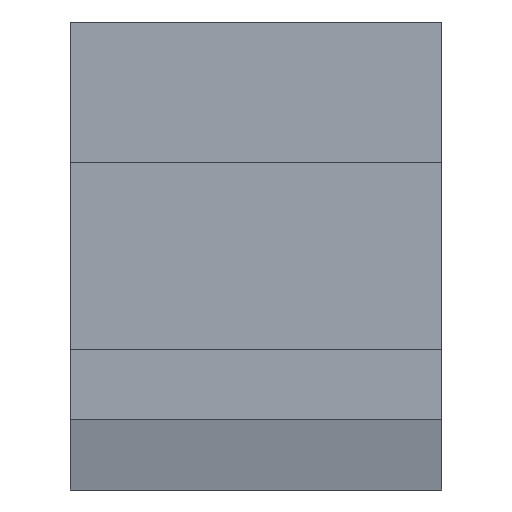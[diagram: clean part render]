
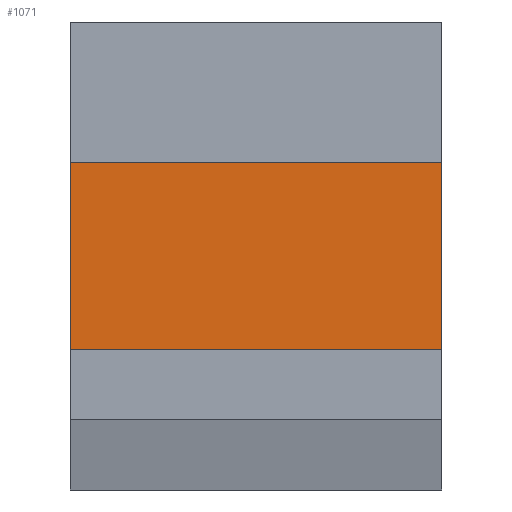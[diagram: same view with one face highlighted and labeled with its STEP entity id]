
A CAD part, front view. The second image highlights one B-rep face of the part: STEP entity #1071.
In plain terms, the highlighted planar face has unit normal (0, -1, 0).
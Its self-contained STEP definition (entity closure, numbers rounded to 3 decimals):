
#217 = DIRECTION ( 'NONE',  ( 0., -1., 0. ) ) ;
#365 = DIRECTION ( 'NONE',  ( 1., 0., 0. ) ) ;
#739 = DIRECTION ( 'NONE',  ( 0., 0., -1. ) ) ;
#839 = EDGE_CURVE ( 'NONE', #1930, #5654, #7679, .T. ) ;
#1010 = CARTESIAN_POINT ( 'NONE',  ( -71.5, 5., 0.652 ) ) ;
#1071 = ADVANCED_FACE ( 'NONE', ( #7317 ), #2902, .T. ) ;
#1079 = DIRECTION ( 'NONE',  ( 0., 0., -1. ) ) ;
#1086 = EDGE_CURVE ( 'NONE', #1930, #7807, #7310, .T. ) ;
#1115 = CARTESIAN_POINT ( 'NONE',  ( 0., 5., 0.652 ) ) ;
#1563 = AXIS2_PLACEMENT_3D ( 'NONE', #2190, #217, #739 ) ;
#1632 = CARTESIAN_POINT ( 'NONE',  ( -71.5, 5., 36.652 ) ) ;
#1930 = VERTEX_POINT ( 'NONE', #7113 ) ;
#2190 = CARTESIAN_POINT ( 'NONE',  ( -71.5, 5., 0.652 ) ) ;
#2655 = ORIENTED_EDGE ( 'NONE', *, *, #1086, .F. ) ;
#2902 = PLANE ( 'NONE',  #1563 ) ;
#2913 = CARTESIAN_POINT ( 'NONE',  ( 0., 5., 0.652 ) ) ;
#3009 = DIRECTION ( 'NONE',  ( 0., 0., -1. ) ) ;
#3182 = CARTESIAN_POINT ( 'NONE',  ( -71.5, 5., 0.652 ) ) ;
#3629 = EDGE_CURVE ( 'NONE', #7807, #5680, #3674, .T. ) ;
#3646 = VECTOR ( 'NONE', #1079, 1000. ) ;
#3674 = LINE ( 'NONE', #1115, #3646 ) ;
#4104 = CARTESIAN_POINT ( 'NONE',  ( 0., 5., 36.652 ) ) ;
#5138 = LINE ( 'NONE', #5919, #5196 ) ;
#5196 = VECTOR ( 'NONE', #5764, 1000. ) ;
#5654 = VERTEX_POINT ( 'NONE', #3182 ) ;
#5680 = VERTEX_POINT ( 'NONE', #2913 ) ;
#5764 = DIRECTION ( 'NONE',  ( 1., 0., 0. ) ) ;
#5919 = CARTESIAN_POINT ( 'NONE',  ( -71.5, 5., 0.652 ) ) ;
#6041 = ORIENTED_EDGE ( 'NONE', *, *, #3629, .F. ) ;
#6090 = EDGE_LOOP ( 'NONE', ( #6041, #2655, #7489, #7632 ) ) ;
#7113 = CARTESIAN_POINT ( 'NONE',  ( -71.5, 5., 36.652 ) ) ;
#7310 = LINE ( 'NONE', #1632, #7371 ) ;
#7317 = FACE_OUTER_BOUND ( 'NONE', #6090, .T. ) ;
#7371 = VECTOR ( 'NONE', #365, 1000. ) ;
#7489 = ORIENTED_EDGE ( 'NONE', *, *, #839, .T. ) ;
#7514 = EDGE_CURVE ( 'NONE', #5654, #5680, #5138, .T. ) ;
#7632 = ORIENTED_EDGE ( 'NONE', *, *, #7514, .T. ) ;
#7673 = VECTOR ( 'NONE', #3009, 1000. ) ;
#7679 = LINE ( 'NONE', #1010, #7673 ) ;
#7807 = VERTEX_POINT ( 'NONE', #4104 ) ;
